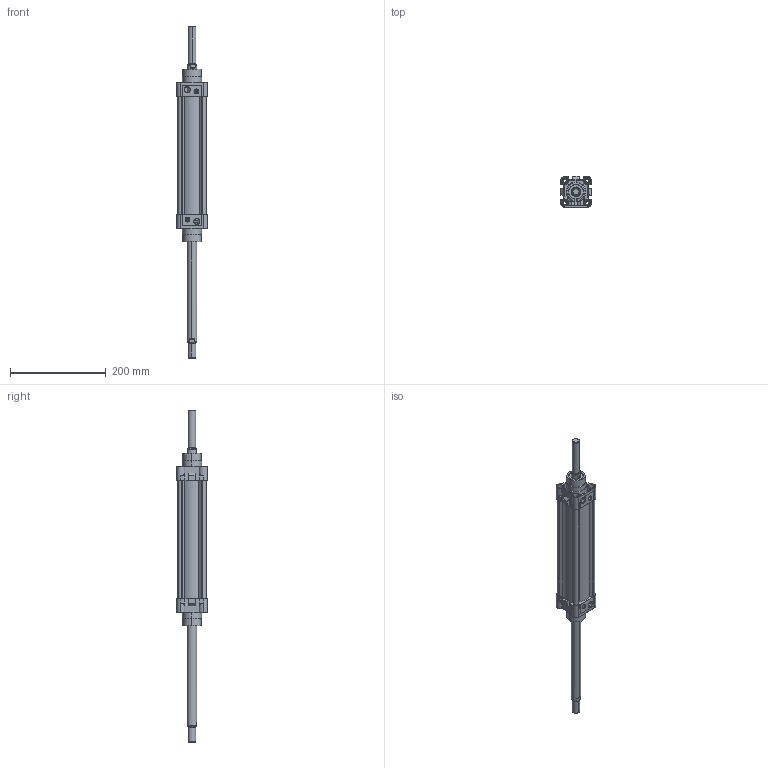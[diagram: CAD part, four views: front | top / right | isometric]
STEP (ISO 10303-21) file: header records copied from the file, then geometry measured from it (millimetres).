
FILE_DESCRIPTION (( 'STEP AP203' ), '1' );
FILE_NAME ('MDNC50X200CIFTMILLI-STROK AYARLI-CYLINDER.STEP', '2016-04-07T13:16:14', ( 'user' ), ( '' ), 'SwSTEP 2.0', 'SolidWorks 2013', '' );
FILE_SCHEMA (( 'CONFIG_CONTROL_DESIGN' ));
Length unit declared in the file: millimetre
Products named in the file (6): MDNC50X200CIFTMILLI-STROK AYARLI-CYLINDER; 烰 KAPAK  50; MDNC 50X200 BORU; ORTA PÝSTON 50 Çift Milli; Piston Mili 50x200; SAPLAMALI M尳 STROK AYARLI 50x200
Assembly tree (6 placements, depth 2):
  MDNC50X200CIFTMILLI-STROK AYARLI-CYLINDER
    烰 KAPAK  50  x2
    MDNC 50X200 BORU
    ORTA PÝSTON 50 Çift Milli
    Piston Mili 50x200
    SAPLAMALI M尳 STROK AYARLI 50x200
Bounding box: 64 x 64.3 x 691.9 mm (x, y, z)
Volume: 564938.5 mm3; surface area: 274235.8 mm2
Topology: 13 solids, 13 shells, 812 faces, 1996 edges, 1289 vertices
Faces by surface type: cylinder 408, plane 284, cone 80, bspline 32, torus 8
Entity records: 19741 total; most frequent: CARTESIAN_POINT 6848, DIRECTION 2593, ORIENTED_EDGE 2536, EDGE_CURVE 1268, AXIS2_PLACEMENT_3D 1024, VERTEX_POINT 821, EDGE_LOOP 607, VECTOR 545
